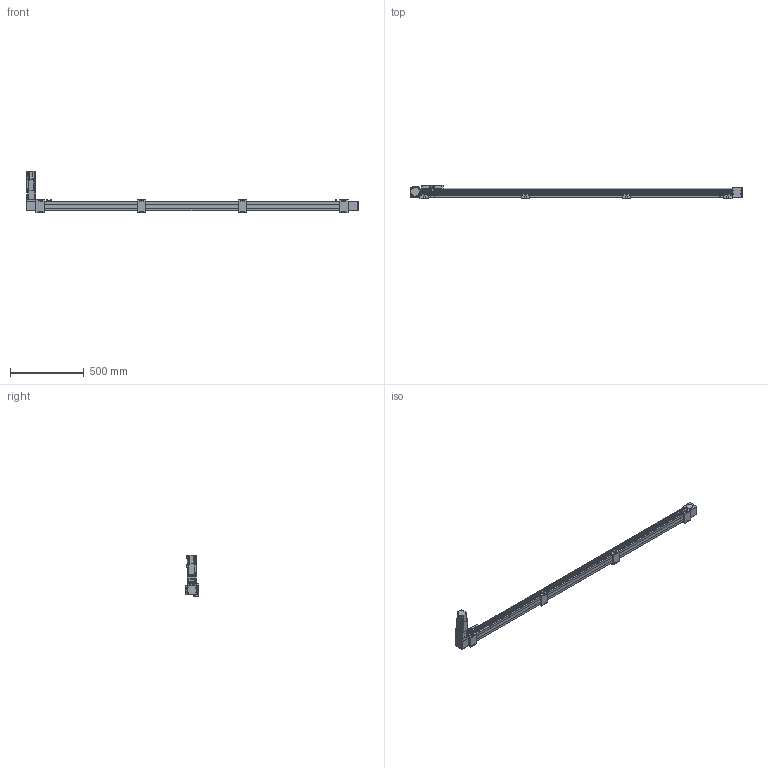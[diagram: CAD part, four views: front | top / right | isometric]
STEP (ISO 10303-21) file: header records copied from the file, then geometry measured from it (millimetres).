
FILE_DESCRIPTION(/* description */ ('STEP AP203'),/* implementation_level */ '2;1');
FILE_NAME(/* name */ 'SK60-P13-S1950-BL-T40-C1-N(0)',/* time_stamp */ '2023-04-06T03:37:32+02:00',/* author */ ('License CC BY-ND 4.0'),/* organization */ ('CADENAS'),/* preprocessor_version */ 'ST-DEVELOPER v19.3',/* originating_system */ 'PARTsolutions',/* authorisation */ ' ');
FILE_SCHEMA (('CONFIG_CONTROL_DESIGN'));
Length unit declared in the file: millimetre
Products named in the file (11): SK60-P13-S1950-BL-T40-C1-N(0); PSC140-sensor; SK60-S450_seat; SK60-S450-BL-C1_slider; SK60_body3; SK60_body6; SK60-BL_body2; T40-p1; SK60_body5; SK60_body4; SK60-S1950-BL-C1_body
Assembly tree (19 placements, depth 2):
  SK60-P13-S1950-BL-T40-C1-N(0)
    PSC140-sensor  x3
    SK60-S450_seat  x4
    SK60-S450-BL-C1_slider
    SK60_body3  x3
    SK60_body6  x2
    SK60-BL_body2  x2
    T40-p1
    SK60_body5
    SK60_body4
    SK60-S1950-BL-C1_body
Bounding box: 2250 x 90 x 278.2 mm (x, y, z)
Volume: 8220291 mm3; surface area: 1022715.3 mm2
Topology: 19 solids, 23 shells, 922 faces, 2305 edges, 1522 vertices
Faces by surface type: plane 592, cylinder 298, cone 30, torus 2
Full cylindrical faces by diameter (mm): 2.8 x3, 3.3 x4, 4.2 x8, 4.5 x26, 4.6 x3, 4.917 x24, 5 x2, 5.478 x4, 5.5 x27, 6.5 x8, 8 x4, 8.5 x4, 9.988 x4, 10 x16, 13.556 x1, 14 x1, 14.586 x1, 19.692 x1, 38.432 x2, 43 x1, 44 x3, 47 x2, 50 x2
Entity records: 19387 total; most frequent: DIRECTION 3296, CARTESIAN_POINT 3291, ORIENTED_EDGE 3050, EDGE_CURVE 1525, AXIS2_PLACEMENT_3D 1102, LINE 1092, VECTOR 1092, VERTEX_POINT 1077
